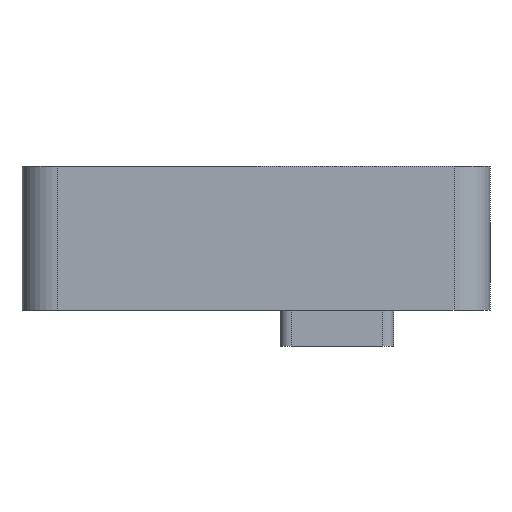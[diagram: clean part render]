
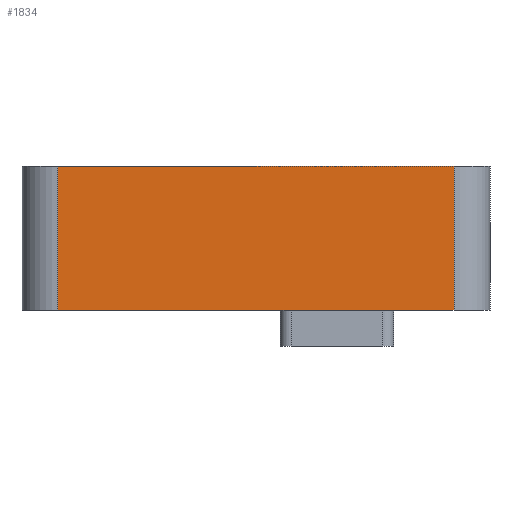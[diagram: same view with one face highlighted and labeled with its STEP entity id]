
A CAD part, left-side view. The second image highlights one B-rep face of the part: STEP entity #1834.
In plain terms, the highlighted planar face has unit normal (-1, 0, 0).
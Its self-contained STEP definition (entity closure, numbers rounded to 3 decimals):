
#32 = PLANE('',#33);
#33 = AXIS2_PLACEMENT_3D('',#34,#35,#36);
#34 = CARTESIAN_POINT('',(-20.5,-13.,-4.));
#35 = DIRECTION('',(0.,0.,1.));
#36 = DIRECTION('',(1.,0.,0.));
#411 = VERTEX_POINT('',#412);
#412 = CARTESIAN_POINT('',(-20.5,11.,-4.));
#431 = CYLINDRICAL_SURFACE('',#432,2.);
#432 = AXIS2_PLACEMENT_3D('',#433,#434,#435);
#433 = CARTESIAN_POINT('',(-18.5,11.,-4.));
#434 = DIRECTION('',(0.,0.,1.));
#435 = DIRECTION('',(-1.,-0.,0.));
#443 = EDGE_CURVE('',#444,#411,#446,.T.);
#444 = VERTEX_POINT('',#445);
#445 = CARTESIAN_POINT('',(-20.5,-11.,-4.));
#446 = SURFACE_CURVE('',#447,(#451,#458),.PCURVE_S1.);
#447 = LINE('',#448,#449);
#448 = CARTESIAN_POINT('',(-20.5,-13.,-4.));
#449 = VECTOR('',#450,1.);
#450 = DIRECTION('',(0.,1.,0.));
#451 = PCURVE('',#32,#452);
#452 = DEFINITIONAL_REPRESENTATION('',(#453),#457);
#453 = LINE('',#454,#455);
#454 = CARTESIAN_POINT('',(0.,0.));
#455 = VECTOR('',#456,1.);
#456 = DIRECTION('',(0.,1.));
#457 = ( GEOMETRIC_REPRESENTATION_CONTEXT(2) 
PARAMETRIC_REPRESENTATION_CONTEXT() REPRESENTATION_CONTEXT('2D SPACE',''
  ) );
#458 = PCURVE('',#459,#464);
#459 = PLANE('',#460);
#460 = AXIS2_PLACEMENT_3D('',#461,#462,#463);
#461 = CARTESIAN_POINT('',(-20.5,-13.,-4.));
#462 = DIRECTION('',(1.,0.,0.));
#463 = DIRECTION('',(0.,0.,1.));
#464 = DEFINITIONAL_REPRESENTATION('',(#465),#469);
#465 = LINE('',#466,#467);
#466 = CARTESIAN_POINT('',(0.,0.));
#467 = VECTOR('',#468,1.);
#468 = DIRECTION('',(0.,-1.));
#469 = ( GEOMETRIC_REPRESENTATION_CONTEXT(2) 
PARAMETRIC_REPRESENTATION_CONTEXT() REPRESENTATION_CONTEXT('2D SPACE',''
  ) );
#488 = CYLINDRICAL_SURFACE('',#489,2.);
#489 = AXIS2_PLACEMENT_3D('',#490,#491,#492);
#490 = CARTESIAN_POINT('',(-18.5,-11.,-4.));
#491 = DIRECTION('',(0.,0.,1.));
#492 = DIRECTION('',(-1.,-0.,0.));
#1410 = PLANE('',#1411);
#1411 = AXIS2_PLACEMENT_3D('',#1412,#1413,#1414);
#1412 = CARTESIAN_POINT('',(-20.5,-13.,4.));
#1413 = DIRECTION('',(0.,0.,1.));
#1414 = DIRECTION('',(1.,0.,0.));
#1791 = VERTEX_POINT('',#1792);
#1792 = CARTESIAN_POINT('',(-20.5,-11.,4.));
#1814 = EDGE_CURVE('',#444,#1791,#1815,.T.);
#1815 = SURFACE_CURVE('',#1816,(#1820,#1827),.PCURVE_S1.);
#1816 = LINE('',#1817,#1818);
#1817 = CARTESIAN_POINT('',(-20.5,-11.,-4.));
#1818 = VECTOR('',#1819,1.);
#1819 = DIRECTION('',(0.,0.,1.));
#1820 = PCURVE('',#488,#1821);
#1821 = DEFINITIONAL_REPRESENTATION('',(#1822),#1826);
#1822 = LINE('',#1823,#1824);
#1823 = CARTESIAN_POINT('',(0.,0.));
#1824 = VECTOR('',#1825,1.);
#1825 = DIRECTION('',(0.,1.));
#1826 = ( GEOMETRIC_REPRESENTATION_CONTEXT(2) 
PARAMETRIC_REPRESENTATION_CONTEXT() REPRESENTATION_CONTEXT('2D SPACE',''
  ) );
#1827 = PCURVE('',#459,#1828);
#1828 = DEFINITIONAL_REPRESENTATION('',(#1829),#1833);
#1829 = LINE('',#1830,#1831);
#1830 = CARTESIAN_POINT('',(0.,-2.));
#1831 = VECTOR('',#1832,1.);
#1832 = DIRECTION('',(1.,0.));
#1833 = ( GEOMETRIC_REPRESENTATION_CONTEXT(2) 
PARAMETRIC_REPRESENTATION_CONTEXT() REPRESENTATION_CONTEXT('2D SPACE',''
  ) );
#1834 = ADVANCED_FACE('',(#1835),#459,.F.);
#1835 = FACE_BOUND('',#1836,.F.);
#1836 = EDGE_LOOP('',(#1837,#1860,#1861,#1862));
#1837 = ORIENTED_EDGE('',*,*,#1838,.F.);
#1838 = EDGE_CURVE('',#1791,#1839,#1841,.T.);
#1839 = VERTEX_POINT('',#1840);
#1840 = CARTESIAN_POINT('',(-20.5,11.,4.));
#1841 = SURFACE_CURVE('',#1842,(#1846,#1853),.PCURVE_S1.);
#1842 = LINE('',#1843,#1844);
#1843 = CARTESIAN_POINT('',(-20.5,-13.,4.));
#1844 = VECTOR('',#1845,1.);
#1845 = DIRECTION('',(0.,1.,0.));
#1846 = PCURVE('',#459,#1847);
#1847 = DEFINITIONAL_REPRESENTATION('',(#1848),#1852);
#1848 = LINE('',#1849,#1850);
#1849 = CARTESIAN_POINT('',(8.,0.));
#1850 = VECTOR('',#1851,1.);
#1851 = DIRECTION('',(0.,-1.));
#1852 = ( GEOMETRIC_REPRESENTATION_CONTEXT(2) 
PARAMETRIC_REPRESENTATION_CONTEXT() REPRESENTATION_CONTEXT('2D SPACE',''
  ) );
#1853 = PCURVE('',#1410,#1854);
#1854 = DEFINITIONAL_REPRESENTATION('',(#1855),#1859);
#1855 = LINE('',#1856,#1857);
#1856 = CARTESIAN_POINT('',(0.,0.));
#1857 = VECTOR('',#1858,1.);
#1858 = DIRECTION('',(0.,1.));
#1859 = ( GEOMETRIC_REPRESENTATION_CONTEXT(2) 
PARAMETRIC_REPRESENTATION_CONTEXT() REPRESENTATION_CONTEXT('2D SPACE',''
  ) );
#1860 = ORIENTED_EDGE('',*,*,#1814,.F.);
#1861 = ORIENTED_EDGE('',*,*,#443,.T.);
#1862 = ORIENTED_EDGE('',*,*,#1863,.T.);
#1863 = EDGE_CURVE('',#411,#1839,#1864,.T.);
#1864 = SURFACE_CURVE('',#1865,(#1869,#1876),.PCURVE_S1.);
#1865 = LINE('',#1866,#1867);
#1866 = CARTESIAN_POINT('',(-20.5,11.,-4.));
#1867 = VECTOR('',#1868,1.);
#1868 = DIRECTION('',(0.,0.,1.));
#1869 = PCURVE('',#459,#1870);
#1870 = DEFINITIONAL_REPRESENTATION('',(#1871),#1875);
#1871 = LINE('',#1872,#1873);
#1872 = CARTESIAN_POINT('',(0.,-24.));
#1873 = VECTOR('',#1874,1.);
#1874 = DIRECTION('',(1.,0.));
#1875 = ( GEOMETRIC_REPRESENTATION_CONTEXT(2) 
PARAMETRIC_REPRESENTATION_CONTEXT() REPRESENTATION_CONTEXT('2D SPACE',''
  ) );
#1876 = PCURVE('',#431,#1877);
#1877 = DEFINITIONAL_REPRESENTATION('',(#1878),#1882);
#1878 = LINE('',#1879,#1880);
#1879 = CARTESIAN_POINT('',(-0.,0.));
#1880 = VECTOR('',#1881,1.);
#1881 = DIRECTION('',(-0.,1.));
#1882 = ( GEOMETRIC_REPRESENTATION_CONTEXT(2) 
PARAMETRIC_REPRESENTATION_CONTEXT() REPRESENTATION_CONTEXT('2D SPACE',''
  ) );
